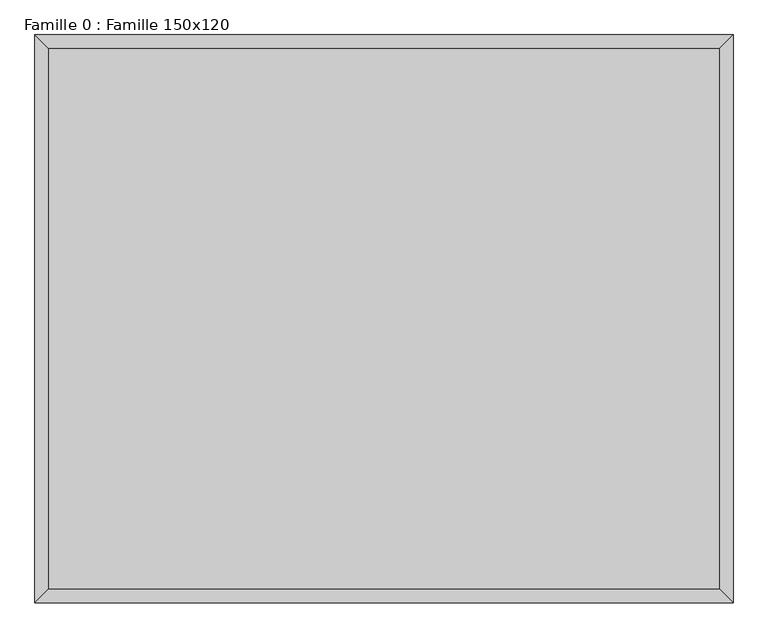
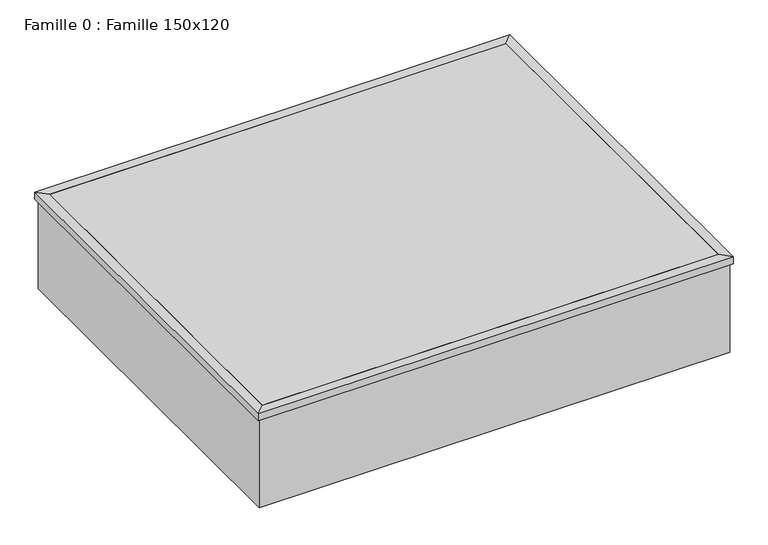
"""IFC4 building model written with IfcOpenShell, lengths in millimetres: proxy geometry, Famille 0 : Famille 150x120."""

import ifcopenshell
import ifcopenshell.guid

model = None  # the IFC model being written
_history = None  # IfcOwnerHistory: only IFC2X3 demands one
_inside = {}  # id of a spatial element -> (the spatial element, [elements in it])
_under = {}  # id of a project, library or spatial element -> (it, [spatial elements below it])
_declared = {}  # id of a project -> (the project, [libraries it declares])
_typed = {}  # id of a type object -> (the type object, [elements of that type])
_made_of = {}  # id of a material, layer set ... -> (it, [elements and type objects made of it])


def new_model(schema):
    """Start an empty IFC model of exactly this schema.

    Asked for "IFC4X3", IfcOpenShell would pick the latest addendum, in which some entities
    have other attributes; the version numbers below select the first issue.
    IFC2X3 requires an IfcOwnerHistory on every rooted entity: one is made here for all.
    """
    global model, _history
    if schema == "IFC4X3":
        model = ifcopenshell.file(schema_version=(4, 3, 0, 0))
    else:
        model = ifcopenshell.file(schema=schema)
    _inside.clear()
    _under.clear()
    _declared.clear()
    _typed.clear()
    _made_of.clear()
    _history = None
    if model.schema == "IFC2X3":
        org = make("IfcOrganization", Name="unknown")
        user = make(
            "IfcPersonAndOrganization",
            ThePerson=make("IfcPerson", FamilyName="unknown"),
            TheOrganization=org,
        )
        app = make(
            "IfcApplication",
            ApplicationDeveloper=org,
            Version="unknown",
            ApplicationFullName="unknown",
            ApplicationIdentifier="unknown",
        )
        _history = make(
            "IfcOwnerHistory",
            OwningUser=user,
            OwningApplication=app,
            ChangeAction="ADDED",
            CreationDate=0,
        )
    return model


def make(cls, **values):
    """One entity of the class cls with the attributes given. An attribute that is None is left unset."""
    return model.create_entity(
        cls, **{name: value for name, value in values.items() if value is not None}
    )


def rooted(cls, **values):
    """An entity with a GlobalId (a new one), such as an element, a storey or a relation."""
    return make(cls, GlobalId=ifcopenshell.guid.new(), OwnerHistory=_history, **values)


def si_unit(unit_type, name, prefix=None):
    """IfcSIUnit, for example si_unit("LENGTHUNIT", "METRE", prefix="MILLI")."""
    return make("IfcSIUnit", UnitType=unit_type, Prefix=prefix, Name=name)


def assignment(units):
    """IfcUnitAssignment: the units of a project."""
    return None if units is None else make("IfcUnitAssignment", Units=units)


def point(xyz):
    """IfcCartesianPoint."""
    return None if xyz is None else make("IfcCartesianPoint", Coordinates=xyz)


def direction(xyz):
    """IfcDirection."""
    return None if xyz is None else make("IfcDirection", DirectionRatios=xyz)


def frame(location, z_axis=None, x_axis=None):
    """IfcAxis2Placement3D, a coordinate frame: its origin and axes. An axis left out is left unset."""
    return make(
        "IfcAxis2Placement3D",
        Location=point(location),
        Axis=direction(z_axis),
        RefDirection=direction(x_axis),
    )


def origin():
    """The frame at (0, 0, 0) with its axes left unset."""
    return frame((0.0, 0.0, 0.0))


def place(relative_to, where):
    """IfcLocalPlacement: puts the frame where relative to a parent placement (None: the world)."""
    return make(
        "IfcLocalPlacement", PlacementRelTo=relative_to, RelativePlacement=where
    )


def context(
    kind, dimensions, precision=None, world=None, true_north=None, identifier=None
):
    """IfcGeometricRepresentationContext, for example the 3D "Model" context."""
    return make(
        "IfcGeometricRepresentationContext",
        ContextIdentifier=identifier,
        ContextType=kind,
        CoordinateSpaceDimension=dimensions,
        Precision=precision,
        WorldCoordinateSystem=world,
        TrueNorth=true_north,
    )


def project(units=None, contexts=None):
    """IfcProject with its units and contexts."""
    return rooted(
        "IfcProject",
        Name="project",
        RepresentationContexts=contexts,
        UnitsInContext=assignment(units),
    )


def spatial(cls, under=None, at=None, **own):
    """A site, building, storey or space (cls), placed at a placement, below another one or the project."""
    s = rooted(cls, ObjectPlacement=at, **own)
    if under is not None:
        _under.setdefault(under.id(), (under, []))[1].append(s)
    return s


def polyline(points):
    """IfcPolyline through the points."""
    return make("IfcPolyline", Points=[point(p) for p in points])


def outline(outer, holes=None, kind="AREA"):
    """IfcArbitraryClosedProfileDef: a profile drawn as a closed curve; with holes, ...WithVoids."""
    if holes is None:
        return make("IfcArbitraryClosedProfileDef", ProfileType=kind, OuterCurve=outer)
    return make(
        "IfcArbitraryProfileDefWithVoids",
        ProfileType=kind,
        OuterCurve=outer,
        InnerCurves=holes,
    )


def extrude(swept, where, along, depth):
    """IfcExtrudedAreaSolid: the profile swept, set in the frame where, extruded along a direction by depth."""
    return make(
        "IfcExtrudedAreaSolid",
        SweptArea=swept,
        Position=where,
        ExtrudedDirection=direction(along),
        Depth=depth,
    )


def faces_of(points, faces, orient=None, outer=None):
    """IfcFace entities. A face is a list of loops; a loop is a list of indices into points, from 0.

    orient and outer hold one flag for each loop. By default every Orientation is true, the
    first loop of a face is its IfcFaceOuterBound and the others are IfcFaceBound.
    """
    made = []
    for i, loops in enumerate(faces):
        bounds = []
        for j, loop in enumerate(loops):
            is_outer = j == 0 if outer is None else outer[i][j]
            bounds.append(
                make(
                    "IfcFaceOuterBound" if is_outer else "IfcFaceBound",
                    Bound=make("IfcPolyLoop", Polygon=[points[k] for k in loop]),
                    Orientation=True if orient is None else orient[i][j],
                )
            )
        made.append(make("IfcFace", Bounds=bounds))
    return made


def faceted_brep(points, faces, orient=None, outer=None, voids=None):
    """IfcFacetedBrep: a solid bounded by flat faces; with voids (closed shells), ...WithVoids."""
    shared = [point(p) for p in points]
    hull = make("IfcClosedShell", CfsFaces=faces_of(shared, faces, orient, outer))
    if voids is None:
        return make("IfcFacetedBrep", Outer=hull)
    return make(
        "IfcFacetedBrepWithVoids",
        Outer=hull,
        Voids=[
            make(cls, CfsFaces=faces_of(shared, fs, o, b)) for cls, fs, o, b in voids
        ],
    )


def shape(context_of_items, identifier, shape_type, items):
    """IfcShapeRepresentation: the items that make up one representation, for example the "Body"."""
    return make(
        "IfcShapeRepresentation",
        ContextOfItems=context_of_items,
        RepresentationIdentifier=identifier,
        RepresentationType=shape_type,
        Items=items,
    )


def source(mapping_origin, context_of_items, identifier, shape_type, items):
    """IfcRepresentationMap: a shape defined once, which mapped items show again and again."""
    return make(
        "IfcRepresentationMap",
        MappingOrigin=mapping_origin,
        MappedRepresentation=shape(context_of_items, identifier, shape_type, items),
    )


def transform(
    local_origin,
    x_axis=None,
    y_axis=None,
    z_axis=None,
    scale=None,
    scale2=None,
    scale3=None,
    uniform=True,
):
    """IfcCartesianTransformationOperator3D, or its non-uniform kind. x_axis, y_axis, z_axis: its Axis1, 2, 3."""
    if uniform:
        return make(
            "IfcCartesianTransformationOperator3D",
            Axis1=direction(x_axis),
            Axis2=direction(y_axis),
            LocalOrigin=point(local_origin),
            Scale=scale,
            Axis3=direction(z_axis),
        )
    return make(
        "IfcCartesianTransformationOperator3DnonUniform",
        Axis1=direction(x_axis),
        Axis2=direction(y_axis),
        LocalOrigin=point(local_origin),
        Scale=scale,
        Axis3=direction(z_axis),
        Scale2=scale2,
        Scale3=scale3,
    )


def mapped(mapping_source, mapping_target):
    """IfcMappedItem: shows the shape of a source again, moved by a transform."""
    return make(
        "IfcMappedItem", MappingSource=mapping_source, MappingTarget=mapping_target
    )


def made_of(thing, what):
    """Note that an element or type object is made of a material, layer set ...; save() writes the relation."""
    if what is not None:
        _made_of.setdefault(what.id(), (what, []))[1].append(thing)
    return thing


def element(
    cls,
    number,
    at=None,
    inside=None,
    cuts=None,
    type_object=None,
    material=None,
    context=None,
    identifier="Body",
    shape_type=None,
    held_by="IfcProductDefinitionShape",
    body=None,
    shapes=None,
    **own,
):
    """One element of the class cls, such as IfcWall. Its Tag is "e" and its number.

    at: its placement. inside: the storey or other place that contains it. cuts: it is an
    opening in that element (IfcRelVoidsElement). A single representation is given by context,
    identifier, shape_type and body (its items); several are given by shapes. held_by: the class
    of the entity that holds the representations. save() writes the other relations.
    """
    e = rooted(cls, Tag="e%d" % number, ObjectPlacement=at, **own)
    if body is not None:
        shapes = [shape(context, identifier, shape_type, body)]
    if shapes is not None:
        e.Representation = make(held_by, Representations=shapes)
    if inside is not None:
        _inside.setdefault(inside.id(), (inside, []))[1].append(e)
    if cuts is not None:
        rooted(
            "IfcRelVoidsElement", RelatingBuildingElement=cuts, RelatedOpeningElement=e
        )
    if type_object is not None:
        _typed.setdefault(type_object.id(), (type_object, []))[1].append(e)
    return made_of(e, material)


def aggregate(whole, parts):
    """IfcRelAggregates: a whole, such as a stair, and the parts it consists of."""
    return rooted("IfcRelAggregates", RelatingObject=whole, RelatedObjects=parts)


def save(model, path):
    """Write the relations noted so far, then the file.

    IfcRelAggregates (storeys below a building ...), IfcRelContainedInSpatialStructure (elements
    in a storey), IfcRelDefinesByType, IfcRelAssociatesMaterial and IfcRelDeclares: one each for
    every whole, place, type object, material and project.
    """
    for whole, parts in _under.values():
        aggregate(whole, parts)
    for where, things in _inside.values():
        rooted(
            "IfcRelContainedInSpatialStructure",
            RelatedElements=things,
            RelatingStructure=where,
        )
    for kind, things in _typed.values():
        rooted("IfcRelDefinesByType", RelatedObjects=things, RelatingType=kind)
    for what, things in _made_of.values():
        rooted("IfcRelAssociatesMaterial", RelatedObjects=things, RelatingMaterial=what)
    for by, libraries in _declared.values():
        rooted("IfcRelDeclares", RelatingContext=by, RelatedDefinitions=libraries)
    model.write(path)


def famille_0_famille_150x120_2a5b572d(model_context):
    return source(origin(), model_context, "Body", "SolidModel", [
        extrude(outline(polyline([(775.0, -625.0), (-775.0, -625.0), (-775.0, 625.0), (775.0, 625.0), (775.0, -625.0)])), frame((0.0, 0.0, 175.9914971), z_axis=(0.0, 0.0, 1.0), x_axis=(1.0, 0.0, 0.0)), (0.0, 0.0, 1.0), 19.1625783),
        faceted_brep([(-775.0, -625.0, 195.1540754), (-807.5, -657.5, 195.1540754), (807.5, -657.5, 195.1540754), (775.0, -625.0, 195.1540754), (-750.0, -600.0, -150.0), (-750.0, -600.0, 175.9914971), (750.0, -600.0, 175.9914971), (750.0, -600.0, -150.0), (-800.0, -650.0, -150.0), (800.0, -650.0, -150.0), (807.5, 657.5, 195.1540754), (775.0, 625.0, 195.1540754), (750.0, 600.0, 175.9914971), (750.0, 600.0, -150.0), (800.0, 650.0, -150.0), (-807.5, 657.5, 195.1540754), (-775.0, 625.0, 195.1540754), (-750.0, 600.0, 175.9914971), (-750.0, 600.0, -150.0), (-800.0, 650.0, -150.0), (-807.5, -657.5, 170.0), (-800.0, -650.0, 170.0), (800.0, -650.0, 170.0), (807.5, -657.5, 170.0), (-775.0, -625.0, 175.9914971), (775.0, -625.0, 175.9914971), (800.0, 650.0, 170.0), (807.5, 657.5, 170.0), (775.0, 625.0, 175.9914971), (-800.0, 650.0, 170.0), (-807.5, 657.5, 170.0), (-775.0, 625.0, 175.9914971)], [[[0, 1, 2, 3]], [[4, 5, 6, 7]], [[8, 4, 7, 9]], [[3, 2, 10, 11]], [[7, 6, 12, 13]], [[9, 7, 13, 14]], [[11, 10, 15, 16]], [[13, 12, 17, 18]], [[14, 13, 18, 19]], [[16, 15, 1, 0]], [[18, 17, 5, 4]], [[19, 18, 4, 8]], [[20, 21, 22, 23]], [[24, 0, 3, 25]], [[5, 24, 25, 6]], [[23, 22, 26, 27]], [[25, 3, 11, 28]], [[6, 25, 28, 12]], [[27, 26, 29, 30]], [[28, 11, 16, 31]], [[12, 28, 31, 17]], [[30, 29, 21, 20]], [[31, 16, 0, 24]], [[17, 31, 24, 5]], [[21, 8, 9, 22]], [[1, 20, 23, 2]], [[22, 9, 14, 26]], [[2, 23, 27, 10]], [[26, 14, 19, 29]], [[10, 27, 30, 15]], [[29, 19, 8, 21]], [[15, 30, 20, 1]]]),
    ])


if __name__ == "__main__":
    model = new_model("IFC4")
    model_context = context("Model", 3, world=origin())
    ifc_project = project(units=[si_unit("LENGTHUNIT", "METRE", prefix="MILLI")], contexts=[model_context])
    site = spatial("IfcSite", under=ifc_project)
    building = spatial("IfcBuilding", under=site)
    placement = place(None, origin())
    famille_0_famille_150x120_shape = famille_0_famille_150x120_2a5b572d(model_context)
    element("IfcBuildingElementProxy", 1, Name="Famille 0 : Famille 150x120", ObjectType="Famille 0 : Famille 150x120", at=placement, inside=building, context=model_context, shape_type="MappedRepresentation", body=[
        mapped(famille_0_famille_150x120_shape, transform((0.0, 0.0, 0.0), x_axis=(1.0, 0.0, 0.0), y_axis=(0.0, 1.0, 0.0), z_axis=(0.0, 0.0, 1.0))),
    ])
    save(model, "model.ifc")
